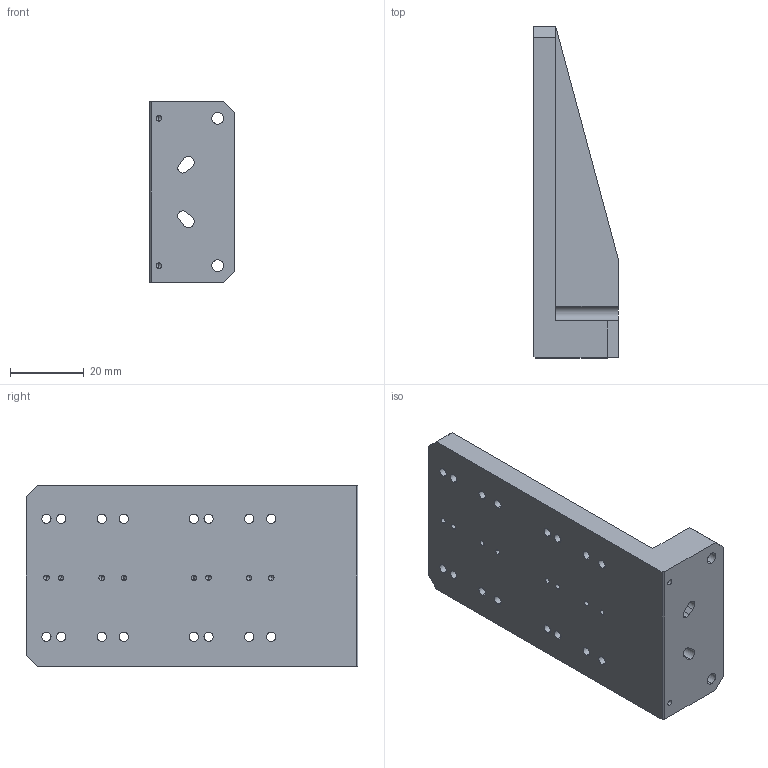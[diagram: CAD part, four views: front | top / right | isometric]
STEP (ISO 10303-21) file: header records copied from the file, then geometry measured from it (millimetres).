
FILE_DESCRIPTION (( 'STEP AP214' ), '1' );
FILE_NAME ('430138-B Adapter Bracket XZ VT-50.STEP', '2014-12-18T17:13:39', ( '' ), ( '' ), 'SwSTEP 2.0', 'SolidWorks 2014', '' );
FILE_SCHEMA (( 'AUTOMOTIVE_DESIGN' ));
Length unit declared in the file: millimetre
Products named in the file (1): 430138-B Adapter Bracket XZ VT-50
Bounding box: 23 x 90 x 49 mm (x, y, z)
Volume: 39211.7 mm3; surface area: 15154.8 mm2
Topology: 1 solids, 1 shells, 107 faces, 293 edges, 178 vertices
Faces by surface type: cylinder 65, plane 22, cone 20
Entity records: 3747 total; most frequent: DIRECTION 619, CARTESIAN_POINT 559, ORIENTED_EDGE 546, EDGE_CURVE 273, AXIS2_PLACEMENT_3D 238, VERTEX_POINT 178, EDGE_LOOP 157, LINE 143
